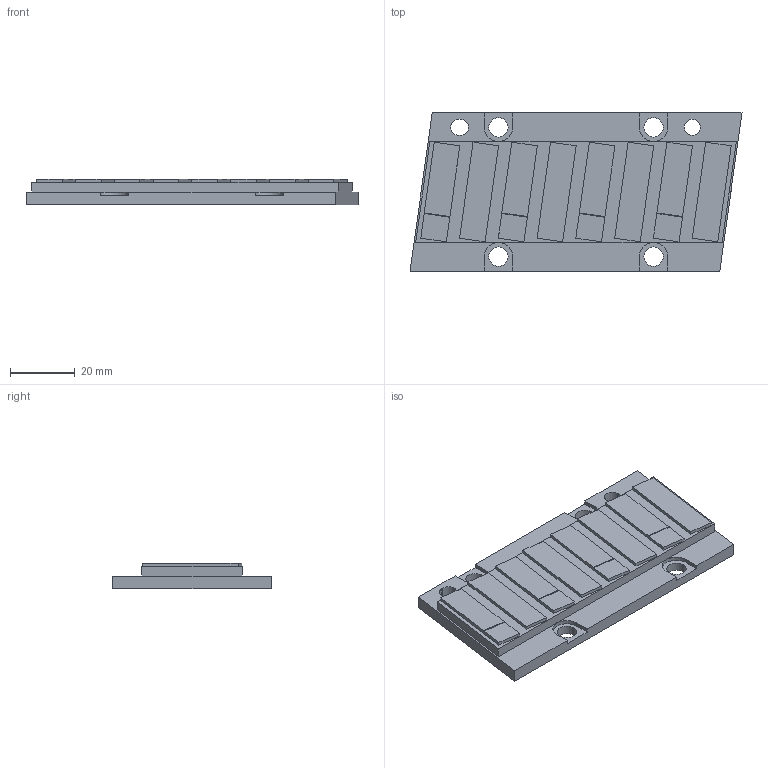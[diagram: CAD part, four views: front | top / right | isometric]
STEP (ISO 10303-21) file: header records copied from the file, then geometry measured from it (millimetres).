
FILE_DESCRIPTION (( 'STEP AP203' ), '1' );
FILE_NAME ('MP49-96 3D.STEP', '2020-10-22T06:42:07', ( '' ), ( '' ), 'SwSTEP 2.0', 'SolidWorks 2018', '' );
FILE_SCHEMA (( 'CONFIG_CONTROL_DESIGN' ));
Length unit declared in the file: millimetre
Products named in the file (1): MP49-96 3D
Bounding box: 102.74 x 49 x 8 mm (x, y, z)
Volume: 28765.9 mm3; surface area: 12026.5 mm2
Topology: 1 solids, 1 shells, 98 faces, 261 edges, 174 vertices
Faces by surface type: plane 81, cylinder 17
Entity records: 3120 total; most frequent: CARTESIAN_POINT 534, ORIENTED_EDGE 522, DIRECTION 493, EDGE_CURVE 261, LINE 227, VECTOR 227, VERTEX_POINT 174, AXIS2_PLACEMENT_3D 133
